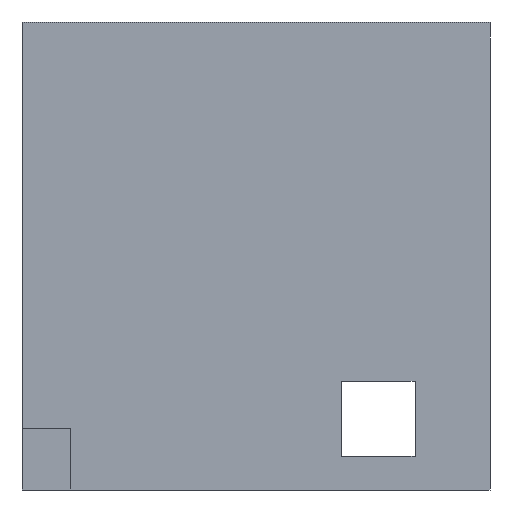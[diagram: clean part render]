
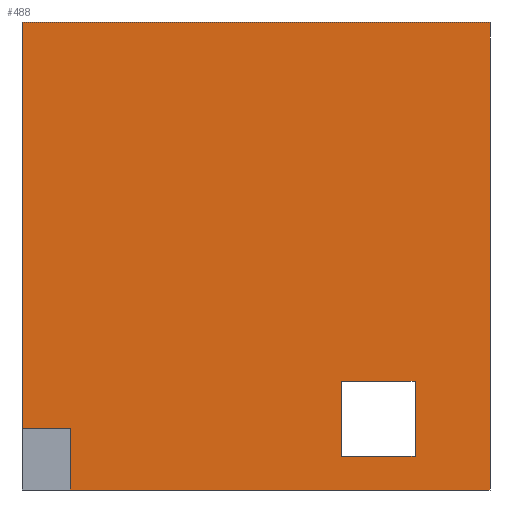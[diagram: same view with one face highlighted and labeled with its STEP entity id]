
A CAD part, left-side view. The second image highlights one B-rep face of the part: STEP entity #488.
In plain terms, the highlighted planar face has unit normal (-1, 0, 0).
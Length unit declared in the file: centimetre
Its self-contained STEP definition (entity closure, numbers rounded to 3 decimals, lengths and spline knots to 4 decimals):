
#2 = ORIENTED_EDGE ( 'NONE', *, *, #479, .F. ) ;
#46 = ORIENTED_EDGE ( 'NONE', *, *, #842, .F. ) ;
#55 = EDGE_CURVE ( 'NONE', #1007, #1050, #1308, .T. ) ;
#71 = VERTEX_POINT ( 'NONE', #82 ) ;
#82 = CARTESIAN_POINT ( 'NONE',  ( 0., 1000., 1000. ) ) ;
#90 = DIRECTION ( 'NONE',  ( 0., 0., 1. ) ) ;
#97 = CARTESIAN_POINT ( 'NONE',  ( 0., 160.1888, 71.7387 ) ) ;
#98 = CARTESIAN_POINT ( 'NONE',  ( 0., 896.7739, 0. ) ) ;
#121 = EDGE_CURVE ( 'NONE', #595, #312, #917, .T. ) ;
#123 = DIRECTION ( 'NONE',  ( 0., -1., 0. ) ) ;
#125 = ORIENTED_EDGE ( 'NONE', *, *, #1021, .F. ) ;
#149 = CARTESIAN_POINT ( 'NONE',  ( 0., 160.1888, 71.7387 ) ) ;
#201 = VECTOR ( 'NONE', #1201, 100. ) ;
#266 = CARTESIAN_POINT ( 'NONE',  ( 0., 896.7739, 0. ) ) ;
#268 = FACE_BOUND ( 'NONE', #1282, .T. ) ;
#277 = VECTOR ( 'NONE', #1004, 100. ) ;
#312 = VERTEX_POINT ( 'NONE', #359 ) ;
#326 = VECTOR ( 'NONE', #568, 100. ) ;
#330 = DIRECTION ( 'NONE',  ( 0., 1., 0. ) ) ;
#359 = CARTESIAN_POINT ( 'NONE',  ( 0., 0., 0. ) ) ;
#388 = ORIENTED_EDGE ( 'NONE', *, *, #1451, .F. ) ;
#391 = AXIS2_PLACEMENT_3D ( 'NONE', #1178, #616, #807 ) ;
#411 = ORIENTED_EDGE ( 'NONE', *, *, #892, .F. ) ;
#413 = ORIENTED_EDGE ( 'NONE', *, *, #1435, .F. ) ;
#423 = DIRECTION ( 'NONE',  ( 0., -1., 0. ) ) ;
#435 = LINE ( 'NONE', #995, #1293 ) ;
#447 = CARTESIAN_POINT ( 'NONE',  ( 0., 1000., 0. ) ) ;
#454 = LINE ( 'NONE', #545, #1244 ) ;
#455 = VERTEX_POINT ( 'NONE', #1379 ) ;
#479 = EDGE_CURVE ( 'NONE', #1050, #754, #594, .T. ) ;
#488 = ADVANCED_FACE ( 'NONE', ( #268, #1068 ), #718, .F. ) ;
#541 = ORIENTED_EDGE ( 'NONE', *, *, #1028, .T. ) ;
#545 = CARTESIAN_POINT ( 'NONE',  ( 0., 1000., 1000. ) ) ;
#557 = LINE ( 'NONE', #97, #1391 ) ;
#568 = DIRECTION ( 'NONE',  ( 0., 1., 0. ) ) ;
#594 = LINE ( 'NONE', #149, #1264 ) ;
#595 = VERTEX_POINT ( 'NONE', #266 ) ;
#600 = DIRECTION ( 'NONE',  ( 0., -1., 0. ) ) ;
#616 = DIRECTION ( 'NONE',  ( 1., 0., 0. ) ) ;
#661 = VERTEX_POINT ( 'NONE', #734 ) ;
#701 = VECTOR ( 'NONE', #423, 100. ) ;
#715 = VERTEX_POINT ( 'NONE', #1186 ) ;
#718 = PLANE ( 'NONE',  #391 ) ;
#734 = CARTESIAN_POINT ( 'NONE',  ( 0., 896.7739, 132.4699 ) ) ;
#754 = VERTEX_POINT ( 'NONE', #1313 ) ;
#807 = DIRECTION ( 'NONE',  ( 0., 0., -1. ) ) ;
#842 = EDGE_CURVE ( 'NONE', #715, #1007, #996, .T. ) ;
#867 = ORIENTED_EDGE ( 'NONE', *, *, #121, .T. ) ;
#880 = CARTESIAN_POINT ( 'NONE',  ( 0., 317.6927, 71.7387 ) ) ;
#889 = CARTESIAN_POINT ( 'NONE',  ( 0., 317.6927, 232.4133 ) ) ;
#892 = EDGE_CURVE ( 'NONE', #595, #661, #1360, .T. ) ;
#894 = VECTOR ( 'NONE', #123, 100. ) ;
#900 = DIRECTION ( 'NONE',  ( 0., 0., -1. ) ) ;
#904 = CARTESIAN_POINT ( 'NONE',  ( 0., 160.1888, 232.4133 ) ) ;
#917 = LINE ( 'NONE', #447, #894 ) ;
#977 = ORIENTED_EDGE ( 'NONE', *, *, #55, .F. ) ;
#982 = EDGE_LOOP ( 'NONE', ( #541, #125, #411, #867, #388, #1074 ) ) ;
#995 = CARTESIAN_POINT ( 'NONE',  ( 0., 0., 1000. ) ) ;
#996 = LINE ( 'NONE', #904, #1362 ) ;
#1004 = DIRECTION ( 'NONE',  ( 0., 0., 1. ) ) ;
#1007 = VERTEX_POINT ( 'NONE', #889 ) ;
#1016 = CARTESIAN_POINT ( 'NONE',  ( 0., 896.7739, 132.4699 ) ) ;
#1021 = EDGE_CURVE ( 'NONE', #661, #455, #1331, .T. ) ;
#1028 = EDGE_CURVE ( 'NONE', #71, #455, #454, .T. ) ;
#1050 = VERTEX_POINT ( 'NONE', #1237 ) ;
#1068 = FACE_OUTER_BOUND ( 'NONE', #982, .T. ) ;
#1074 = ORIENTED_EDGE ( 'NONE', *, *, #1374, .F. ) ;
#1178 = CARTESIAN_POINT ( 'NONE',  ( 0., 1000., 1000. ) ) ;
#1186 = CARTESIAN_POINT ( 'NONE',  ( 0., 160.1888, 232.4133 ) ) ;
#1200 = CARTESIAN_POINT ( 'NONE',  ( 0., 0., 1000. ) ) ;
#1201 = DIRECTION ( 'NONE',  ( 0., 0., -1. ) ) ;
#1237 = CARTESIAN_POINT ( 'NONE',  ( 0., 317.6927, 71.7387 ) ) ;
#1244 = VECTOR ( 'NONE', #900, 100. ) ;
#1264 = VECTOR ( 'NONE', #600, 100. ) ;
#1282 = EDGE_LOOP ( 'NONE', ( #413, #2, #977, #46 ) ) ;
#1293 = VECTOR ( 'NONE', #1339, 100. ) ;
#1308 = LINE ( 'NONE', #880, #201 ) ;
#1313 = CARTESIAN_POINT ( 'NONE',  ( 0., 160.1888, 71.7387 ) ) ;
#1317 = CARTESIAN_POINT ( 'NONE',  ( 0., 1000., 1000. ) ) ;
#1325 = VERTEX_POINT ( 'NONE', #1200 ) ;
#1331 = LINE ( 'NONE', #1016, #326 ) ;
#1339 = DIRECTION ( 'NONE',  ( 0., 0., -1. ) ) ;
#1360 = LINE ( 'NONE', #98, #277 ) ;
#1362 = VECTOR ( 'NONE', #330, 100. ) ;
#1374 = EDGE_CURVE ( 'NONE', #71, #1325, #1403, .T. ) ;
#1379 = CARTESIAN_POINT ( 'NONE',  ( 0., 1000., 132.4699 ) ) ;
#1391 = VECTOR ( 'NONE', #90, 100. ) ;
#1403 = LINE ( 'NONE', #1317, #701 ) ;
#1435 = EDGE_CURVE ( 'NONE', #754, #715, #557, .T. ) ;
#1451 = EDGE_CURVE ( 'NONE', #1325, #312, #435, .T. ) ;
